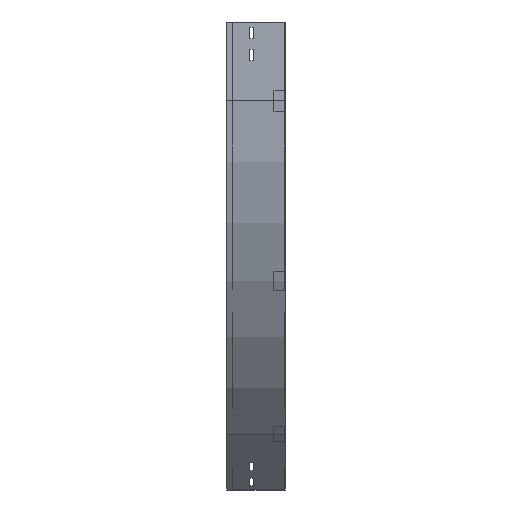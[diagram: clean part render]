
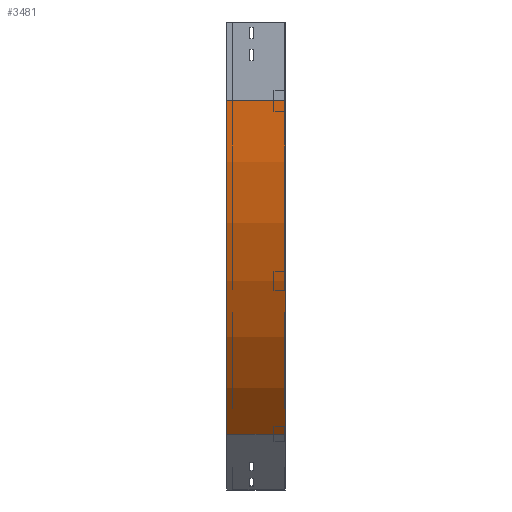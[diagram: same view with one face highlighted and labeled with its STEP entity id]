
A CAD part, left-side view. The second image highlights one B-rep face of the part: STEP entity #3481.
In plain terms, the highlighted cylindrical face has radius 900 mm (diameter 1800 mm), a partial arc.
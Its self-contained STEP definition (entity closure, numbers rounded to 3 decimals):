
#32 = DIRECTION ( 'NONE',  ( 0., -1., 0. ) ) ;
#108 = CARTESIAN_POINT ( 'NONE',  ( 263.604, 0., -786.396 ) ) ;
#132 = DIRECTION ( 'NONE',  ( 0., -1., 0. ) ) ;
#247 = CARTESIAN_POINT ( 'NONE',  ( 900., 112.5, -150. ) ) ;
#446 = AXIS2_PLACEMENT_3D ( 'NONE', #1159, #562, #1394 ) ;
#488 = EDGE_CURVE ( 'NONE', #3793, #1208, #1214, .T. ) ;
#543 = ORIENTED_EDGE ( 'NONE', *, *, #1949, .T. ) ;
#558 = DIRECTION ( 'NONE',  ( -1., 0., 0. ) ) ;
#562 = DIRECTION ( 'NONE',  ( 0., -1., 0. ) ) ;
#624 = VERTEX_POINT ( 'NONE', #2597 ) ;
#965 = CARTESIAN_POINT ( 'NONE',  ( 0., 0., -150. ) ) ;
#997 = AXIS2_PLACEMENT_3D ( 'NONE', #2699, #32, #2432 ) ;
#1159 = CARTESIAN_POINT ( 'NONE',  ( 900., 0., -150. ) ) ;
#1208 = VERTEX_POINT ( 'NONE', #3394 ) ;
#1214 = LINE ( 'NONE', #965, #3135 ) ;
#1248 = AXIS2_PLACEMENT_3D ( 'NONE', #247, #2694, #558 ) ;
#1383 = CIRCLE ( 'NONE', #446, 900. ) ;
#1394 = DIRECTION ( 'NONE',  ( -1., 0., 0. ) ) ;
#1407 = EDGE_CURVE ( 'NONE', #1208, #624, #1383, .T. ) ;
#1493 = FACE_OUTER_BOUND ( 'NONE', #2491, .T. ) ;
#1527 = VERTEX_POINT ( 'NONE', #2747 ) ;
#1949 = EDGE_CURVE ( 'NONE', #3793, #1527, #2954, .T. ) ;
#2250 = ORIENTED_EDGE ( 'NONE', *, *, #488, .F. ) ;
#2306 = CARTESIAN_POINT ( 'NONE',  ( 0., 112.5, -150. ) ) ;
#2432 = DIRECTION ( 'NONE',  ( 0., 0., -1. ) ) ;
#2457 = DIRECTION ( 'NONE',  ( 0., -1., 0. ) ) ;
#2491 = EDGE_LOOP ( 'NONE', ( #3047, #2250, #543, #2882 ) ) ;
#2597 = CARTESIAN_POINT ( 'NONE',  ( 263.604, 0., -786.396 ) ) ;
#2694 = DIRECTION ( 'NONE',  ( 0., -1., 0. ) ) ;
#2699 = CARTESIAN_POINT ( 'NONE',  ( 900., 0., -150. ) ) ;
#2708 = VECTOR ( 'NONE', #132, 1000. ) ;
#2716 = CYLINDRICAL_SURFACE ( 'NONE', #997, 900. ) ;
#2747 = CARTESIAN_POINT ( 'NONE',  ( 263.604, 112.5, -786.396 ) ) ;
#2882 = ORIENTED_EDGE ( 'NONE', *, *, #3606, .T. ) ;
#2954 = CIRCLE ( 'NONE', #1248, 900. ) ;
#3047 = ORIENTED_EDGE ( 'NONE', *, *, #1407, .F. ) ;
#3135 = VECTOR ( 'NONE', #2457, 1000. ) ;
#3373 = LINE ( 'NONE', #108, #2708 ) ;
#3394 = CARTESIAN_POINT ( 'NONE',  ( 0., 0., -150. ) ) ;
#3481 = ADVANCED_FACE ( 'NONE', ( #1493 ), #2716, .T. ) ;
#3606 = EDGE_CURVE ( 'NONE', #1527, #624, #3373, .T. ) ;
#3793 = VERTEX_POINT ( 'NONE', #2306 ) ;
